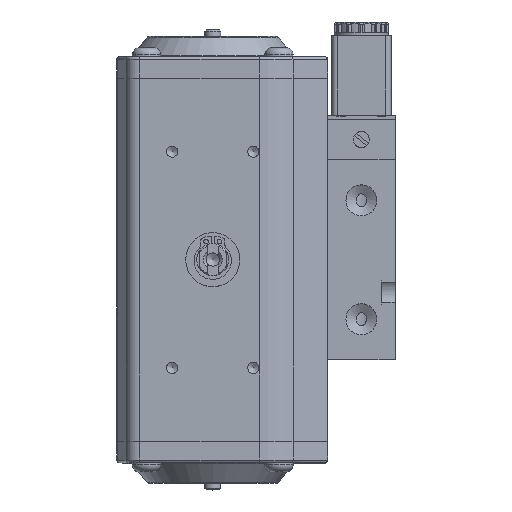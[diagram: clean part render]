
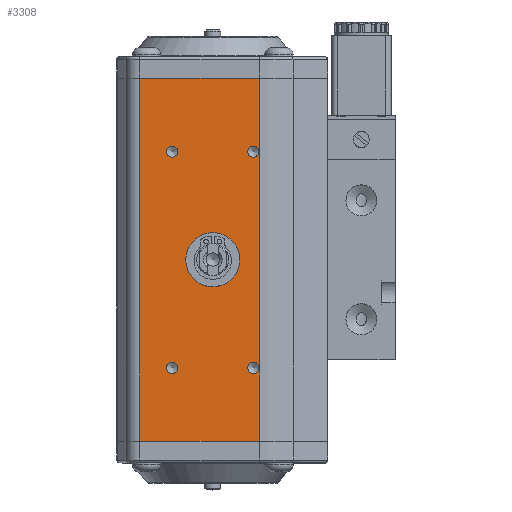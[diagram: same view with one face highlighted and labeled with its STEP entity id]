
A CAD part, top view. The second image highlights one B-rep face of the part: STEP entity #3308.
In plain terms, the highlighted planar face has unit normal (0, 0, 1) as drawn and (0, 1, 0) by its records, which use the part's own axes.
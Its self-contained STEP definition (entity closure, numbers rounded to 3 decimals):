
#3308 = ADVANCED_FACE( '', ( #6908, #6909, #6910, #6911, #6912, #6913 ), #6914, .T. );
#6908 = FACE_OUTER_BOUND( '', #11051, .T. );
#6909 = FACE_BOUND( '', #11052, .T. );
#6910 = FACE_BOUND( '', #11053, .T. );
#6911 = FACE_BOUND( '', #11054, .T. );
#6912 = FACE_BOUND( '', #11055, .T. );
#6913 = FACE_BOUND( '', #11056, .T. );
#6914 = PLANE( '', #11057 );
#11051 = EDGE_LOOP( '', ( #20108, #20109, #20110, #20111 ) );
#11052 = EDGE_LOOP( '', ( #20112 ) );
#11053 = EDGE_LOOP( '', ( #20113 ) );
#11054 = EDGE_LOOP( '', ( #20114 ) );
#11055 = EDGE_LOOP( '', ( #20115 ) );
#11056 = EDGE_LOOP( '', ( #20116 ) );
#11057 = AXIS2_PLACEMENT_3D( '', #20117, #20118, #20119 );
#20108 = ORIENTED_EDGE( '', *, *, #25683, .F. );
#20109 = ORIENTED_EDGE( '', *, *, #25136, .T. );
#20110 = ORIENTED_EDGE( '', *, *, #25239, .F. );
#20111 = ORIENTED_EDGE( '', *, *, #25465, .T. );
#20112 = ORIENTED_EDGE( '', *, *, #24195, .T. );
#20113 = ORIENTED_EDGE( '', *, *, #24648, .T. );
#20114 = ORIENTED_EDGE( '', *, *, #25684, .T. );
#20115 = ORIENTED_EDGE( '', *, *, #22460, .T. );
#20116 = ORIENTED_EDGE( '', *, *, #25607, .T. );
#20117 = CARTESIAN_POINT( '', ( -31.5, 35.5, 0. ) );
#20118 = DIRECTION( '', ( 0., 1., 0. ) );
#20119 = DIRECTION( '', ( 1., 0., 0. ) );
#22460 = EDGE_CURVE( '', #26168, #26168, #26169, .T. );
#24195 = EDGE_CURVE( '', #29062, #29062, #29063, .T. );
#24648 = EDGE_CURVE( '', #29715, #29715, #29716, .T. );
#25136 = EDGE_CURVE( '', #30380, #30378, #30381, .T. );
#25239 = EDGE_CURVE( '', #30505, #30378, #30507, .T. );
#25465 = EDGE_CURVE( '', #30505, #30775, #30777, .T. );
#25607 = EDGE_CURVE( '', #30945, #30945, #30946, .T. );
#25683 = EDGE_CURVE( '', #30380, #30775, #31031, .T. );
#25684 = EDGE_CURVE( '', #31032, #31032, #31033, .T. );
#26168 = VERTEX_POINT( '', #31598 );
#26169 = CIRCLE( '', #31599, 2.067 );
#29062 = VERTEX_POINT( '', #36888 );
#29063 = CIRCLE( '', #36889, 2.067 );
#29715 = VERTEX_POINT( '', #37895 );
#29716 = CIRCLE( '', #37896, 2.067 );
#30378 = VERTEX_POINT( '', #39278 );
#30380 = VERTEX_POINT( '', #39280 );
#30381 = LINE( '', #39281, #39282 );
#30505 = VERTEX_POINT( '', #39479 );
#30507 = LINE( '', #39481, #39482 );
#30775 = VERTEX_POINT( '', #39931 );
#30777 = LINE( '', #39933, #39934 );
#30945 = VERTEX_POINT( '', #40212 );
#30946 = CIRCLE( '', #40213, 6.1 );
#31031 = LINE( '', #40378, #40379 );
#31032 = VERTEX_POINT( '', #40380 );
#31033 = CIRCLE( '', #40381, 2.067 );
#31598 = CARTESIAN_POINT( '', ( 17.067, 35.5, 107.15 ) );
#31599 = AXIS2_PLACEMENT_3D( '', #41041, #41042, #41043 );
#36888 = CARTESIAN_POINT( '', ( -12.933, 35.5, 107.15 ) );
#36889 = AXIS2_PLACEMENT_3D( '', #42980, #42981, #42982 );
#37895 = CARTESIAN_POINT( '', ( -12.933, 35.5, 27.15 ) );
#37896 = AXIS2_PLACEMENT_3D( '', #43495, #43496, #43497 );
#39278 = CARTESIAN_POINT( '', ( 17.272, 35.5, 134.3 ) );
#39280 = CARTESIAN_POINT( '', ( -27.063, 35.5, 134.3 ) );
#39281 = CARTESIAN_POINT( '', ( -27.063, 35.5, 134.3 ) );
#39282 = VECTOR( '', #43986, 1000. );
#39479 = CARTESIAN_POINT( '', ( 17.272, 35.5, 0. ) );
#39481 = CARTESIAN_POINT( '', ( 17.272, 35.5, 0. ) );
#39482 = VECTOR( '', #44079, 1000. );
#39931 = CARTESIAN_POINT( '', ( -27.063, 35.5, 0. ) );
#39933 = CARTESIAN_POINT( '', ( 17.272, 35.5, 0. ) );
#39934 = VECTOR( '', #44293, 1000. );
#40212 = CARTESIAN_POINT( '', ( 6.1, 35.5, 67.15 ) );
#40213 = AXIS2_PLACEMENT_3D( '', #44399, #44400, #44401 );
#40378 = CARTESIAN_POINT( '', ( -27.063, 35.5, 134.3 ) );
#40379 = VECTOR( '', #44451, 1000. );
#40380 = CARTESIAN_POINT( '', ( 17.067, 35.5, 27.15 ) );
#40381 = AXIS2_PLACEMENT_3D( '', #44452, #44453, #44454 );
#41041 = CARTESIAN_POINT( '', ( 15., 35.5, 107.15 ) );
#41042 = DIRECTION( '', ( 0., -1., 0. ) );
#41043 = DIRECTION( '', ( 1., 0., 0. ) );
#42980 = CARTESIAN_POINT( '', ( -15., 35.5, 107.15 ) );
#42981 = DIRECTION( '', ( 0., -1., 0. ) );
#42982 = DIRECTION( '', ( 1., 0., 0. ) );
#43495 = CARTESIAN_POINT( '', ( -15., 35.5, 27.15 ) );
#43496 = DIRECTION( '', ( 0., -1., 0. ) );
#43497 = DIRECTION( '', ( 1., 0., 0. ) );
#43986 = DIRECTION( '', ( 1., 0., 0. ) );
#44079 = DIRECTION( '', ( 0., 0., 1. ) );
#44293 = DIRECTION( '', ( -1., 0., 0. ) );
#44399 = CARTESIAN_POINT( '', ( 0., 35.5, 67.15 ) );
#44400 = DIRECTION( '', ( 0., -1., 0. ) );
#44401 = DIRECTION( '', ( 1., 0., 0. ) );
#44451 = DIRECTION( '', ( 0., 0., -1. ) );
#44452 = CARTESIAN_POINT( '', ( 15., 35.5, 27.15 ) );
#44453 = DIRECTION( '', ( 0., -1., 0. ) );
#44454 = DIRECTION( '', ( 1., 0., 0. ) );
